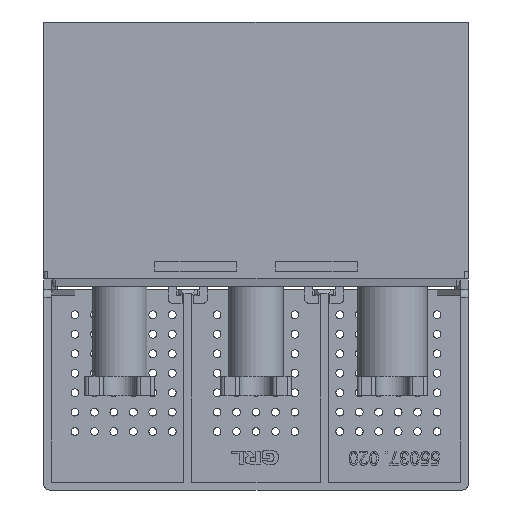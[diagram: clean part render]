
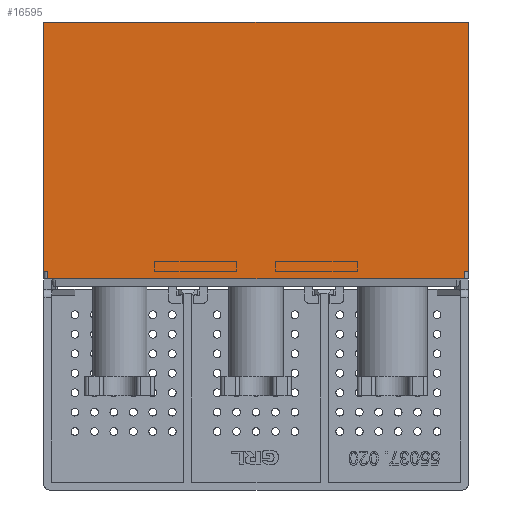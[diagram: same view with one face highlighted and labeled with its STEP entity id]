
A CAD part, left-side view. The second image highlights one B-rep face of the part: STEP entity #16595.
In plain terms, the highlighted planar face has unit normal (-1, 0, 0).
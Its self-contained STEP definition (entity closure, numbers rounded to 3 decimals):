
#738 = ORIENTED_EDGE ( 'NONE', *, *, #6443, .T. ) ;
#2201 = VERTEX_POINT ( 'NONE', #4855 ) ;
#4855 = CARTESIAN_POINT ( 'NONE',  ( -136.5, 54.5, 64. ) ) ;
#6443 = EDGE_CURVE ( 'NONE', #31589, #80516, #58470, .T. ) ;
#7799 = EDGE_CURVE ( 'NONE', #95145, #13564, #87013, .T. ) ;
#8117 = CARTESIAN_POINT ( 'NONE',  ( -136.5, 54.5, 0. ) ) ;
#8126 = EDGE_CURVE ( 'NONE', #22683, #95145, #45799, .T. ) ;
#8969 = LINE ( 'NONE', #23655, #51273 ) ;
#10265 = VERTEX_POINT ( 'NONE', #64107 ) ;
#13564 = VERTEX_POINT ( 'NONE', #32876 ) ;
#14546 = EDGE_CURVE ( 'NONE', #13564, #19341, #8969, .T. ) ;
#15227 = DIRECTION ( 'NONE',  ( 0., 1., 0. ) ) ;
#15689 = CARTESIAN_POINT ( 'NONE',  ( -136.5, -54.5, 64. ) ) ;
#15845 = VECTOR ( 'NONE', #108885, 1000. ) ;
#16595 = ADVANCED_FACE ( 'NONE', ( #35802 ), #45676, .F. ) ;
#17724 = ORIENTED_EDGE ( 'NONE', *, *, #70446, .F. ) ;
#18573 = VECTOR ( 'NONE', #93378, 1000. ) ;
#18700 = CARTESIAN_POINT ( 'NONE',  ( -136.5, -53.5, -2. ) ) ;
#19341 = VERTEX_POINT ( 'NONE', #8117 ) ;
#20089 = CARTESIAN_POINT ( 'NONE',  ( -136.5, -54.5, 0. ) ) ;
#20160 = CARTESIAN_POINT ( 'NONE',  ( -136.5, -54.5, -2. ) ) ;
#20227 = ORIENTED_EDGE ( 'NONE', *, *, #25954, .F. ) ;
#22683 = VERTEX_POINT ( 'NONE', #18700 ) ;
#22745 = LINE ( 'NONE', #109570, #81526 ) ;
#23655 = CARTESIAN_POINT ( 'NONE',  ( -136.5, -54.5, 0. ) ) ;
#25954 = EDGE_CURVE ( 'NONE', #10265, #22683, #22745, .T. ) ;
#26953 = CARTESIAN_POINT ( 'NONE',  ( -136.5, 0., 64. ) ) ;
#31589 = VERTEX_POINT ( 'NONE', #20089 ) ;
#32105 = EDGE_CURVE ( 'NONE', #19341, #2201, #54424, .T. ) ;
#32164 = CARTESIAN_POINT ( 'NONE',  ( -136.5, -54.5, 0. ) ) ;
#32876 = CARTESIAN_POINT ( 'NONE',  ( -136.5, 53.5, 0. ) ) ;
#35802 = FACE_OUTER_BOUND ( 'NONE', #73349, .T. ) ;
#37655 = DIRECTION ( 'NONE',  ( 0., 0., -1. ) ) ;
#38298 = ORIENTED_EDGE ( 'NONE', *, *, #8126, .F. ) ;
#40044 = LINE ( 'NONE', #32164, #45511 ) ;
#43893 = CARTESIAN_POINT ( 'NONE',  ( -136.5, 53.5, -2. ) ) ;
#45511 = VECTOR ( 'NONE', #84221, 1000. ) ;
#45676 = PLANE ( 'NONE',  #83936 ) ;
#45799 = LINE ( 'NONE', #110032, #15845 ) ;
#47613 = VECTOR ( 'NONE', #50077, 1000. ) ;
#47822 = EDGE_CURVE ( 'NONE', #31589, #10265, #40044, .T. ) ;
#48523 = VECTOR ( 'NONE', #96136, 1000. ) ;
#49977 = DIRECTION ( 'NONE',  ( 0., 0., 1. ) ) ;
#50077 = DIRECTION ( 'NONE',  ( 0., 0., 1. ) ) ;
#51273 = VECTOR ( 'NONE', #15227, 1000. ) ;
#51540 = ORIENTED_EDGE ( 'NONE', *, *, #47822, .F. ) ;
#51656 = VECTOR ( 'NONE', #49977, 1000. ) ;
#53631 = ORIENTED_EDGE ( 'NONE', *, *, #32105, .F. ) ;
#54424 = LINE ( 'NONE', #94456, #47613 ) ;
#56767 = LINE ( 'NONE', #26953, #48523 ) ;
#58470 = LINE ( 'NONE', #64176, #51656 ) ;
#64107 = CARTESIAN_POINT ( 'NONE',  ( -136.5, -53.5, 0. ) ) ;
#64176 = CARTESIAN_POINT ( 'NONE',  ( -136.5, -54.5, -4.2 ) ) ;
#65698 = ORIENTED_EDGE ( 'NONE', *, *, #7799, .F. ) ;
#70446 = EDGE_CURVE ( 'NONE', #2201, #80516, #56767, .T. ) ;
#73349 = EDGE_LOOP ( 'NONE', ( #20227, #51540, #738, #17724, #53631, #79963, #65698, #38298 ) ) ;
#79963 = ORIENTED_EDGE ( 'NONE', *, *, #14546, .F. ) ;
#80516 = VERTEX_POINT ( 'NONE', #15689 ) ;
#81526 = VECTOR ( 'NONE', #102265, 1000. ) ;
#83936 = AXIS2_PLACEMENT_3D ( 'NONE', #20160, #90087, #37655 ) ;
#84212 = CARTESIAN_POINT ( 'NONE',  ( -136.5, 53.5, -2. ) ) ;
#84221 = DIRECTION ( 'NONE',  ( 0., 1., 0. ) ) ;
#87013 = LINE ( 'NONE', #84212, #18573 ) ;
#90087 = DIRECTION ( 'NONE',  ( 1., 0., 0. ) ) ;
#93378 = DIRECTION ( 'NONE',  ( 0., 0., 1. ) ) ;
#94456 = CARTESIAN_POINT ( 'NONE',  ( -136.5, 54.5, -2. ) ) ;
#95145 = VERTEX_POINT ( 'NONE', #43893 ) ;
#96136 = DIRECTION ( 'NONE',  ( 0., -1., 0. ) ) ;
#102265 = DIRECTION ( 'NONE',  ( 0., 0., -1. ) ) ;
#108885 = DIRECTION ( 'NONE',  ( 0., 1., 0. ) ) ;
#109570 = CARTESIAN_POINT ( 'NONE',  ( -136.5, -53.5, -2. ) ) ;
#110032 = CARTESIAN_POINT ( 'NONE',  ( -136.5, -51.5, -2. ) ) ;
